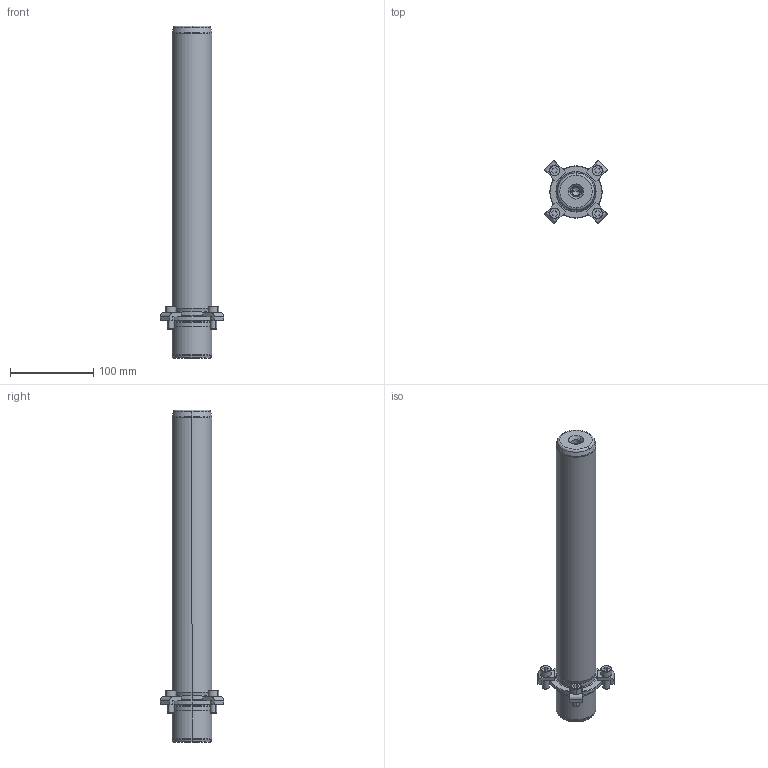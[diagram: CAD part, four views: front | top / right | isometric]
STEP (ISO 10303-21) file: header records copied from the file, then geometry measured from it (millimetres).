
FILE_DESCRIPTION((''),'2;1');
FILE_NAME('P21_048_355.stp','2008-12-23T13:40:33',(''),(''),'Mechanical Desktop 2009','Mechanical Desktop 2009',', , ');
FILE_SCHEMA(('CONFIG_CONTROL_DESIGN'));
Length unit declared in the file: millimetre
Products named in the file (2): Product; blmdl1
Assembly tree (1 placements, depth 2):
  Product
    blmdl1
Bounding box: 76.01 x 76.01 x 400 mm (x, y, z)
Volume: 732895.1 mm3; surface area: 77734.3 mm2
Topology: 9 solids, 9 shells, 195 faces, 477 edges, 309 vertices
Faces by surface type: plane 77, cylinder 52, cone 34, torus 16, bspline 16
Entity records: 6547 total; most frequent: CARTESIAN_POINT 1683, DIRECTION 1078, ORIENTED_EDGE 946, EDGE_CURVE 473, AXIS2_PLACEMENT_3D 424, VERTEX_POINT 309, CIRCLE 243, VECTOR 230
